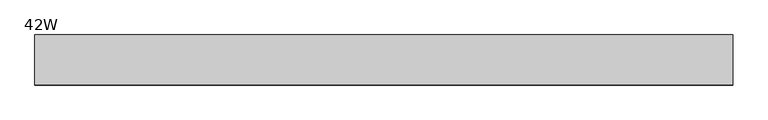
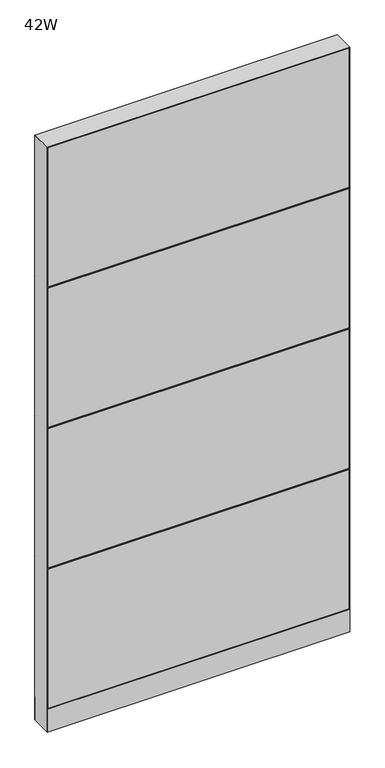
"""IFC4 building model written with IfcOpenShell, lengths in millimetres: furniture geometry, Steelcase - Montage - Frame - 86H - Enhanced Standard - Base Cavity : 42W."""

import ifcopenshell
import ifcopenshell.guid

model = None  # the IFC model being written
_history = None  # IfcOwnerHistory: only IFC2X3 demands one
_inside = {}  # id of a spatial element -> (the spatial element, [elements in it])
_under = {}  # id of a project, library or spatial element -> (it, [spatial elements below it])
_declared = {}  # id of a project -> (the project, [libraries it declares])
_typed = {}  # id of a type object -> (the type object, [elements of that type])
_made_of = {}  # id of a material, layer set ... -> (it, [elements and type objects made of it])


def new_model(schema):
    """Start an empty IFC model of exactly this schema.

    Asked for "IFC4X3", IfcOpenShell would pick the latest addendum, in which some entities
    have other attributes; the version numbers below select the first issue.
    IFC2X3 requires an IfcOwnerHistory on every rooted entity: one is made here for all.
    """
    global model, _history
    if schema == "IFC4X3":
        model = ifcopenshell.file(schema_version=(4, 3, 0, 0))
    else:
        model = ifcopenshell.file(schema=schema)
    _inside.clear()
    _under.clear()
    _declared.clear()
    _typed.clear()
    _made_of.clear()
    _history = None
    if model.schema == "IFC2X3":
        org = make("IfcOrganization", Name="unknown")
        user = make(
            "IfcPersonAndOrganization",
            ThePerson=make("IfcPerson", FamilyName="unknown"),
            TheOrganization=org,
        )
        app = make(
            "IfcApplication",
            ApplicationDeveloper=org,
            Version="unknown",
            ApplicationFullName="unknown",
            ApplicationIdentifier="unknown",
        )
        _history = make(
            "IfcOwnerHistory",
            OwningUser=user,
            OwningApplication=app,
            ChangeAction="ADDED",
            CreationDate=0,
        )
    return model


def make(cls, **values):
    """One entity of the class cls with the attributes given. An attribute that is None is left unset."""
    return model.create_entity(
        cls, **{name: value for name, value in values.items() if value is not None}
    )


def rooted(cls, **values):
    """An entity with a GlobalId (a new one), such as an element, a storey or a relation."""
    return make(cls, GlobalId=ifcopenshell.guid.new(), OwnerHistory=_history, **values)


def si_unit(unit_type, name, prefix=None):
    """IfcSIUnit, for example si_unit("LENGTHUNIT", "METRE", prefix="MILLI")."""
    return make("IfcSIUnit", UnitType=unit_type, Prefix=prefix, Name=name)


def assignment(units):
    """IfcUnitAssignment: the units of a project."""
    return None if units is None else make("IfcUnitAssignment", Units=units)


def point(xyz):
    """IfcCartesianPoint."""
    return None if xyz is None else make("IfcCartesianPoint", Coordinates=xyz)


def direction(xyz):
    """IfcDirection."""
    return None if xyz is None else make("IfcDirection", DirectionRatios=xyz)


def frame(location, z_axis=None, x_axis=None):
    """IfcAxis2Placement3D, a coordinate frame: its origin and axes. An axis left out is left unset."""
    return make(
        "IfcAxis2Placement3D",
        Location=point(location),
        Axis=direction(z_axis),
        RefDirection=direction(x_axis),
    )


def frame_2d(location, x_axis=None):
    """IfcAxis2Placement2D, a coordinate frame in the plane: its origin and x axis."""
    return make(
        "IfcAxis2Placement2D", Location=point(location), RefDirection=direction(x_axis)
    )


def origin():
    """The frame at (0, 0, 0) with its axes left unset."""
    return frame((0.0, 0.0, 0.0))


def origin_with_axes():
    """The frame at (0, 0, 0) with the z axis (0, 0, 1) and the x axis (1, 0, 0) written out."""
    return frame((0.0, 0.0, 0.0), z_axis=(0.0, 0.0, 1.0), x_axis=(1.0, 0.0, 0.0))


def place(relative_to, where):
    """IfcLocalPlacement: puts the frame where relative to a parent placement (None: the world)."""
    return make(
        "IfcLocalPlacement", PlacementRelTo=relative_to, RelativePlacement=where
    )


def context(
    kind, dimensions, precision=None, world=None, true_north=None, identifier=None
):
    """IfcGeometricRepresentationContext, for example the 3D "Model" context."""
    return make(
        "IfcGeometricRepresentationContext",
        ContextIdentifier=identifier,
        ContextType=kind,
        CoordinateSpaceDimension=dimensions,
        Precision=precision,
        WorldCoordinateSystem=world,
        TrueNorth=true_north,
    )


def project(units=None, contexts=None):
    """IfcProject with its units and contexts."""
    return rooted(
        "IfcProject",
        Name="project",
        RepresentationContexts=contexts,
        UnitsInContext=assignment(units),
    )


def spatial(cls, under=None, at=None, **own):
    """A site, building, storey or space (cls), placed at a placement, below another one or the project."""
    s = rooted(cls, ObjectPlacement=at, **own)
    if under is not None:
        _under.setdefault(under.id(), (under, []))[1].append(s)
    return s


def polyline(points):
    """IfcPolyline through the points."""
    return make("IfcPolyline", Points=[point(p) for p in points])


def circle_curve(where, radius):
    """IfcCircle in the frame where."""
    return make("IfcCircle", Position=where, Radius=radius)


def trimmed(basis, trim1, trim2, sense, master):
    """IfcTrimmedCurve: the piece of a basis curve between two trims."""
    return make(
        "IfcTrimmedCurve",
        BasisCurve=basis,
        Trim1=trim1,
        Trim2=trim2,
        SenseAgreement=sense,
        MasterRepresentation=master,
    )


def segment(curve, same_sense, transition):
    """IfcCompositeCurveSegment."""
    return make(
        "IfcCompositeCurveSegment",
        Transition=transition,
        SameSense=same_sense,
        ParentCurve=curve,
    )


def composite_curve(segments, self_intersect=None):
    """IfcCompositeCurve: segments joined end to end."""
    return make("IfcCompositeCurve", Segments=segments, SelfIntersect=self_intersect)


def outline(outer, holes=None, kind="AREA"):
    """IfcArbitraryClosedProfileDef: a profile drawn as a closed curve; with holes, ...WithVoids."""
    if holes is None:
        return make("IfcArbitraryClosedProfileDef", ProfileType=kind, OuterCurve=outer)
    return make(
        "IfcArbitraryProfileDefWithVoids",
        ProfileType=kind,
        OuterCurve=outer,
        InnerCurves=holes,
    )


def extrude(swept, where, along, depth):
    """IfcExtrudedAreaSolid: the profile swept, set in the frame where, extruded along a direction by depth."""
    return make(
        "IfcExtrudedAreaSolid",
        SweptArea=swept,
        Position=where,
        ExtrudedDirection=direction(along),
        Depth=depth,
    )


def faces_of(points, faces, orient=None, outer=None):
    """IfcFace entities. A face is a list of loops; a loop is a list of indices into points, from 0.

    orient and outer hold one flag for each loop. By default every Orientation is true, the
    first loop of a face is its IfcFaceOuterBound and the others are IfcFaceBound.
    """
    made = []
    for i, loops in enumerate(faces):
        bounds = []
        for j, loop in enumerate(loops):
            is_outer = j == 0 if outer is None else outer[i][j]
            bounds.append(
                make(
                    "IfcFaceOuterBound" if is_outer else "IfcFaceBound",
                    Bound=make("IfcPolyLoop", Polygon=[points[k] for k in loop]),
                    Orientation=True if orient is None else orient[i][j],
                )
            )
        made.append(make("IfcFace", Bounds=bounds))
    return made


def faceted_brep(points, faces, orient=None, outer=None, voids=None):
    """IfcFacetedBrep: a solid bounded by flat faces; with voids (closed shells), ...WithVoids."""
    shared = [point(p) for p in points]
    hull = make("IfcClosedShell", CfsFaces=faces_of(shared, faces, orient, outer))
    if voids is None:
        return make("IfcFacetedBrep", Outer=hull)
    return make(
        "IfcFacetedBrepWithVoids",
        Outer=hull,
        Voids=[
            make(cls, CfsFaces=faces_of(shared, fs, o, b)) for cls, fs, o, b in voids
        ],
    )


def shape(context_of_items, identifier, shape_type, items):
    """IfcShapeRepresentation: the items that make up one representation, for example the "Body"."""
    return make(
        "IfcShapeRepresentation",
        ContextOfItems=context_of_items,
        RepresentationIdentifier=identifier,
        RepresentationType=shape_type,
        Items=items,
    )


def source(mapping_origin, context_of_items, identifier, shape_type, items):
    """IfcRepresentationMap: a shape defined once, which mapped items show again and again."""
    return make(
        "IfcRepresentationMap",
        MappingOrigin=mapping_origin,
        MappedRepresentation=shape(context_of_items, identifier, shape_type, items),
    )


def transform(
    local_origin,
    x_axis=None,
    y_axis=None,
    z_axis=None,
    scale=None,
    scale2=None,
    scale3=None,
    uniform=True,
):
    """IfcCartesianTransformationOperator3D, or its non-uniform kind. x_axis, y_axis, z_axis: its Axis1, 2, 3."""
    if uniform:
        return make(
            "IfcCartesianTransformationOperator3D",
            Axis1=direction(x_axis),
            Axis2=direction(y_axis),
            LocalOrigin=point(local_origin),
            Scale=scale,
            Axis3=direction(z_axis),
        )
    return make(
        "IfcCartesianTransformationOperator3DnonUniform",
        Axis1=direction(x_axis),
        Axis2=direction(y_axis),
        LocalOrigin=point(local_origin),
        Scale=scale,
        Axis3=direction(z_axis),
        Scale2=scale2,
        Scale3=scale3,
    )


def mapped(mapping_source, mapping_target):
    """IfcMappedItem: shows the shape of a source again, moved by a transform."""
    return make(
        "IfcMappedItem", MappingSource=mapping_source, MappingTarget=mapping_target
    )


def made_of(thing, what):
    """Note that an element or type object is made of a material, layer set ...; save() writes the relation."""
    if what is not None:
        _made_of.setdefault(what.id(), (what, []))[1].append(thing)
    return thing


def element(
    cls,
    number,
    at=None,
    inside=None,
    cuts=None,
    type_object=None,
    material=None,
    context=None,
    identifier="Body",
    shape_type=None,
    held_by="IfcProductDefinitionShape",
    body=None,
    shapes=None,
    **own,
):
    """One element of the class cls, such as IfcWall. Its Tag is "e" and its number.

    at: its placement. inside: the storey or other place that contains it. cuts: it is an
    opening in that element (IfcRelVoidsElement). A single representation is given by context,
    identifier, shape_type and body (its items); several are given by shapes. held_by: the class
    of the entity that holds the representations. save() writes the other relations.
    """
    e = rooted(cls, Tag="e%d" % number, ObjectPlacement=at, **own)
    if body is not None:
        shapes = [shape(context, identifier, shape_type, body)]
    if shapes is not None:
        e.Representation = make(held_by, Representations=shapes)
    if inside is not None:
        _inside.setdefault(inside.id(), (inside, []))[1].append(e)
    if cuts is not None:
        rooted(
            "IfcRelVoidsElement", RelatingBuildingElement=cuts, RelatedOpeningElement=e
        )
    if type_object is not None:
        _typed.setdefault(type_object.id(), (type_object, []))[1].append(e)
    return made_of(e, material)


def aggregate(whole, parts):
    """IfcRelAggregates: a whole, such as a stair, and the parts it consists of."""
    return rooted("IfcRelAggregates", RelatingObject=whole, RelatedObjects=parts)


def save(model, path):
    """Write the relations noted so far, then the file.

    IfcRelAggregates (storeys below a building ...), IfcRelContainedInSpatialStructure (elements
    in a storey), IfcRelDefinesByType, IfcRelAssociatesMaterial and IfcRelDeclares: one each for
    every whole, place, type object, material and project.
    """
    for whole, parts in _under.values():
        aggregate(whole, parts)
    for where, things in _inside.values():
        rooted(
            "IfcRelContainedInSpatialStructure",
            RelatedElements=things,
            RelatingStructure=where,
        )
    for kind, things in _typed.values():
        rooted("IfcRelDefinesByType", RelatedObjects=things, RelatingType=kind)
    for what, things in _made_of.values():
        rooted("IfcRelAssociatesMaterial", RelatedObjects=things, RelatingMaterial=what)
    for by, libraries in _declared.values():
        rooted("IfcRelDeclares", RelatingContext=by, RelatedDefinitions=libraries)
    model.write(path)


def furniture_42w_da4ac2c9(model_context):
    return source(origin(), model_context, "Body", "SolidModel", [
        faceted_brep([(-5.4e-06, 38.102627, 1136.6500027), (6.3499917, 31.7526299, 1142.9999997), (1060.4500047, 31.7526299, 1142.9999997), (1066.8, 38.1026253, 1136.6500044), (1060.4500047, 31.7526299, 1130.3000003), (6.3499917, 31.7526299, 1130.3000003)], [[[0, 1, 2, 3]], [[3, 4, 5, 0]], [[1, 5, 4, 2]], [[0, 5, 1]], [[2, 4, 3]]]),
        faceted_brep([(-5.4e-06, 38.102627, 612.7750027), (6.3499917, 31.7526299, 619.1249997), (1060.4500047, 31.7526299, 619.1249997), (1066.8, 38.1026253, 612.7750044), (1060.4500047, 31.7526299, 606.4250003), (6.3499917, 31.7526299, 606.4250003)], [[[0, 1, 2, 3]], [[3, 4, 5, 0]], [[1, 5, 4, 2]], [[0, 5, 1]], [[2, 4, 3]]]),
        faceted_brep([(-5.4e-06, 38.102627, 1660.5250027), (6.3499917, 31.7526299, 1666.8749997), (1060.4500047, 31.7526299, 1666.8749997), (1066.8, 38.1026253, 1660.5250044), (1060.4500047, 31.7526299, 1654.1750003), (6.3499917, 31.7526299, 1654.1750003)], [[[0, 1, 2, 3]], [[3, 4, 5, 0]], [[1, 5, 4, 2]], [[0, 5, 1]], [[2, 4, 3]]]),
        extrude(outline(polyline([(3.175, 31.7500194), (3.175, 38.1000194), (1063.625, 38.1000194), (1063.625, 31.7500194), (3.175, 31.7500194)])), frame((0.0, 0.0, 1663.7), z_axis=(0.0, 0.0, 1.0), x_axis=(1.0, 0.0, 0.0)), (0.0, 0.0, 1.0), 517.525),
        extrude(outline(polyline([(3.175, 31.7500194), (3.175, 38.1000194), (1063.625, 38.1000194), (1063.625, 31.7500194), (3.175, 31.7500194)])), frame((0.0, 0.0, 92.075), z_axis=(0.0, 0.0, 1.0), x_axis=(1.0, 0.0, 0.0)), (0.0, 0.0, 1.0), 517.525),
        extrude(outline(polyline([(3.175, 31.7500194), (3.175, 38.1000194), (1063.625, 38.1000194), (1063.625, 31.7500194), (3.175, 31.7500194)])), frame((0.0, 0.0, 615.95), z_axis=(0.0, 0.0, 1.0), x_axis=(1.0, 0.0, 0.0)), (0.0, 0.0, 1.0), 517.525),
        extrude(outline(polyline([(3.175, 31.7500194), (3.175, 38.1000194), (1063.625, 38.1000194), (1063.625, 31.7500194), (3.175, 31.7500194)])), frame((0.0, 0.0, 1139.825), z_axis=(0.0, 0.0, 1.0), x_axis=(1.0, 0.0, 0.0)), (0.0, 0.0, 1.0), 517.525),
        faceted_brep([(0.0, -38.1026297, 1136.65), (1066.8, -38.1026297, 1136.65), (1060.4500047, -31.7526299, 1142.9999997), (6.3499917, -31.7526299, 1142.9999997), (6.3499917, -31.7526299, 1130.3000003), (1060.4500047, -31.7526299, 1130.3000003)], [[[0, 1, 2, 3]], [[1, 0, 4, 5]], [[3, 2, 5, 4]], [[0, 3, 4]], [[2, 1, 5]]]),
        faceted_brep([(0.0, -38.1026297, 612.775), (1066.8, -38.1026297, 612.775), (1060.4500047, -31.7526299, 619.1249997), (6.3499917, -31.7526299, 619.1249997), (6.3499917, -31.7526299, 606.4250003), (1060.4500047, -31.7526299, 606.4250003)], [[[0, 1, 2, 3]], [[1, 0, 4, 5]], [[3, 2, 5, 4]], [[0, 3, 4]], [[2, 1, 5]]]),
        faceted_brep([(0.0, -38.1026297, 1660.525), (1066.8, -38.1026297, 1660.525), (1060.4500047, -31.7526299, 1666.8749997), (6.3499917, -31.7526299, 1666.8749997), (6.3499917, -31.7526299, 1654.1750003), (1060.4500047, -31.7526299, 1654.1750003)], [[[0, 1, 2, 3]], [[1, 0, 4, 5]], [[3, 2, 5, 4]], [[0, 3, 4]], [[2, 1, 5]]]),
        extrude(outline(polyline([(3.175, -31.7500194), (1063.625, -31.7500194), (1063.625, -38.1000194), (3.175, -38.1000194), (3.175, -31.7500194)])), frame((0.0, 0.0, 1663.7), z_axis=(0.0, 0.0, 1.0), x_axis=(1.0, 0.0, 0.0)), (0.0, 0.0, 1.0), 517.525),
        extrude(outline(polyline([(3.175, -31.7500194), (1063.625, -31.7500194), (1063.625, -38.1000194), (3.175, -38.1000194), (3.175, -31.7500194)])), frame((0.0, 0.0, 92.075), z_axis=(0.0, 0.0, 1.0), x_axis=(1.0, 0.0, 0.0)), (0.0, 0.0, 1.0), 517.525),
        extrude(outline(polyline([(3.175, -31.7500194), (1063.625, -31.7500194), (1063.625, -38.1000194), (3.175, -38.1000194), (3.175, -31.7500194)])), frame((0.0, 0.0, 615.95), z_axis=(0.0, 0.0, 1.0), x_axis=(1.0, 0.0, 0.0)), (0.0, 0.0, 1.0), 517.525),
        extrude(outline(polyline([(3.175, -31.7500194), (1063.625, -31.7500194), (1063.625, -38.1000194), (3.175, -38.1000194), (3.175, -31.7500194)])), frame((0.0, 0.0, 1139.825), z_axis=(0.0, 0.0, 1.0), x_axis=(1.0, 0.0, 0.0)), (0.0, 0.0, 1.0), 517.525),
        extrude(outline(polyline([(6.350003, -31.7499985), (1060.449997, -31.7499985), (1066.8, -38.1000015), (0.0, -38.1000015), (6.350003, -31.7499985)])), frame((0.0, 0.0, 4.064), z_axis=(0.0, 0.0, 1.0), x_axis=(1.0, 0.0, 0.0)), (0.0, 0.0, 1.0), 84.835997),
        extrude(outline(polyline([(6.3500002, 31.7500017), (0.0, 38.1000015), (1066.8, 38.1000015), (1060.4500002, 31.7500017), (6.3500002, 31.7500017)])), frame((0.0, 0.0, 4.064), z_axis=(0.0, 0.0, 1.0), x_axis=(1.0, 0.0, 0.0)), (0.0, 0.0, 1.0), 84.835997),
        faceted_brep([(1066.8, -38.1000015, 2184.4), (0.0, -38.1000015, 2184.4), (6.3500484, -31.749953, 2178.0499516), (1060.4499516, -31.749953, 2178.0499516), (6.3500484, 31.749953, 2178.0499516), (1060.4499516, 31.749953, 2178.0499516), (0.0, 38.1000015, 2184.4), (1066.8, 38.1000015, 2184.4)], [[[0, 1, 2, 3]], [[3, 2, 4, 5]], [[6, 7, 5, 4]], [[1, 0, 7, 6]], [[2, 1, 6, 4]], [[0, 3, 5, 7]]]),
        extrude(outline(composite_curve([segment(trimmed(circle_curve(frame_2d((44.45, 0.0)), 15.24), [point((29.21, 0.0))], [point((59.69, 0.0))], False, "CARTESIAN"), True, "CONTINUOUS"), segment(trimmed(circle_curve(frame_2d((44.45, 0.0)), 15.24), [point((59.69, 0.0))], [point((29.21, 0.0))], False, "CARTESIAN"), True, "CONTINUOUS")], self_intersect=False)), origin_with_axes(), (0.0, 0.0, 1.0), 4.064),
        extrude(outline(composite_curve([segment(trimmed(circle_curve(frame_2d((1022.35, 0.0)), 15.24), [point((1007.11, 0.0))], [point((1037.59, 0.0))], False, "CARTESIAN"), True, "CONTINUOUS"), segment(trimmed(circle_curve(frame_2d((1022.35, 0.0)), 15.24), [point((1037.59, 0.0))], [point((1007.11, 0.0))], False, "CARTESIAN"), True, "CONTINUOUS")], self_intersect=False)), origin_with_axes(), (0.0, 0.0, 1.0), 4.064),
        faceted_brep([(1066.8, -38.1000106, 4.064), (1066.8, 38.1000015, 4.064), (1066.8, 38.1000015, 2184.4), (1066.8, -38.1000106, 2184.3999637), (0.0, 38.1000015, 4.064), (0.0, -38.1000015, 4.064), (0.0, -38.1000015, 2184.4), (0.0, 38.1000015, 2184.4), (1060.4499879, 31.7500017, 606.425), (6.35, 31.7500017, 606.425), (6.3499998, 31.7500017, 619.125), (1060.4499879, 31.7500017, 619.125), (6.35, -31.7499985, 619.125), (1060.4499879, -31.7499985, 619.125), (6.350003, -31.7499985, 606.425), (1060.4499879, -31.7499985, 606.425), (1060.4499879, 31.7500017, 1130.3), (6.35, 31.7500017, 1130.3), (6.3499998, 31.7500017, 1143.0), (1060.4499879, 31.7500017, 1143.0), (6.35, -31.7499985, 1143.0), (1060.4499879, -31.7499985, 1143.0), (6.350003, -31.7499985, 1130.3), (1060.4499879, -31.7499985, 1130.3), (1060.4499879, 31.7500017, 1654.175), (6.35, 31.7500017, 1654.175), (6.3499998, 31.7500017, 1666.875), (1060.4499879, 31.7500017, 1666.875), (6.35, -31.7499985, 1666.875), (1060.4499879, -31.7499985, 1666.875), (6.350003, -31.7499985, 1654.175), (1060.4499879, -31.7499985, 1654.175), (6.35, 31.7500015, 4.064), (6.35, -31.7500015, 4.064), (1060.4499879, 31.7499894, 4.064), (1060.4499879, -31.7499985, 4.064), (6.35, 31.7500015, 2178.05), (6.35, -31.7500015, 2178.05), (1060.4499879, -31.7499985, 2178.0499516), (1060.4499879, 31.7499895, 2178.0499516)], [[[0, 1, 2, 3]], [[4, 5, 6, 7]], [[8, 9, 10, 11]], [[11, 10, 12, 13]], [[13, 12, 14, 15]], [[9, 8, 15, 14]], [[16, 17, 18, 19]], [[19, 18, 20, 21]], [[21, 20, 22, 23]], [[17, 16, 23, 22]], [[24, 25, 26, 27]], [[27, 26, 28, 29]], [[29, 28, 30, 31]], [[25, 24, 31, 30]], [[32, 33, 5, 4]], [[34, 1, 0, 35]], [[32, 4, 7, 36, 26, 25, 18, 17, 10, 9]], [[5, 33, 14, 12, 22, 20, 30, 28, 37, 6]], [[28, 26, 36, 37]], [[33, 32, 9, 14]], [[18, 25, 30, 20]], [[10, 17, 22, 12]], [[27, 29, 38, 39]], [[34, 35, 15, 8]], [[16, 11, 13, 23]], [[24, 19, 21, 31]], [[35, 0, 3, 38, 29, 31, 21, 23, 13, 15]], [[1, 34, 8, 11, 16, 19, 24, 27, 39, 2]], [[7, 6, 37, 36]], [[3, 2, 39, 38]]]),
    ])


if __name__ == "__main__":
    model = new_model("IFC4")
    model_context = context("Model", 3, world=origin())
    ifc_project = project(units=[si_unit("LENGTHUNIT", "METRE", prefix="MILLI")], contexts=[model_context])
    site = spatial("IfcSite", under=ifc_project)
    building = spatial("IfcBuilding", under=site)
    placement = place(None, origin())
    furniture_42w_shape = furniture_42w_da4ac2c9(model_context)
    element("IfcFurniture", 1, ObjectType="Steelcase - Montage - Frame - 86H - Enhanced Standard - Base Cavity : 42W", at=placement, inside=building, context=model_context, shape_type="MappedRepresentation", body=[
        mapped(furniture_42w_shape, transform((0.0, 0.0, 0.0), x_axis=(1.0, 0.0, 0.0), y_axis=(0.0, 1.0, 0.0), z_axis=(0.0, 0.0, 1.0))),
    ])
    save(model, "model.ifc")
